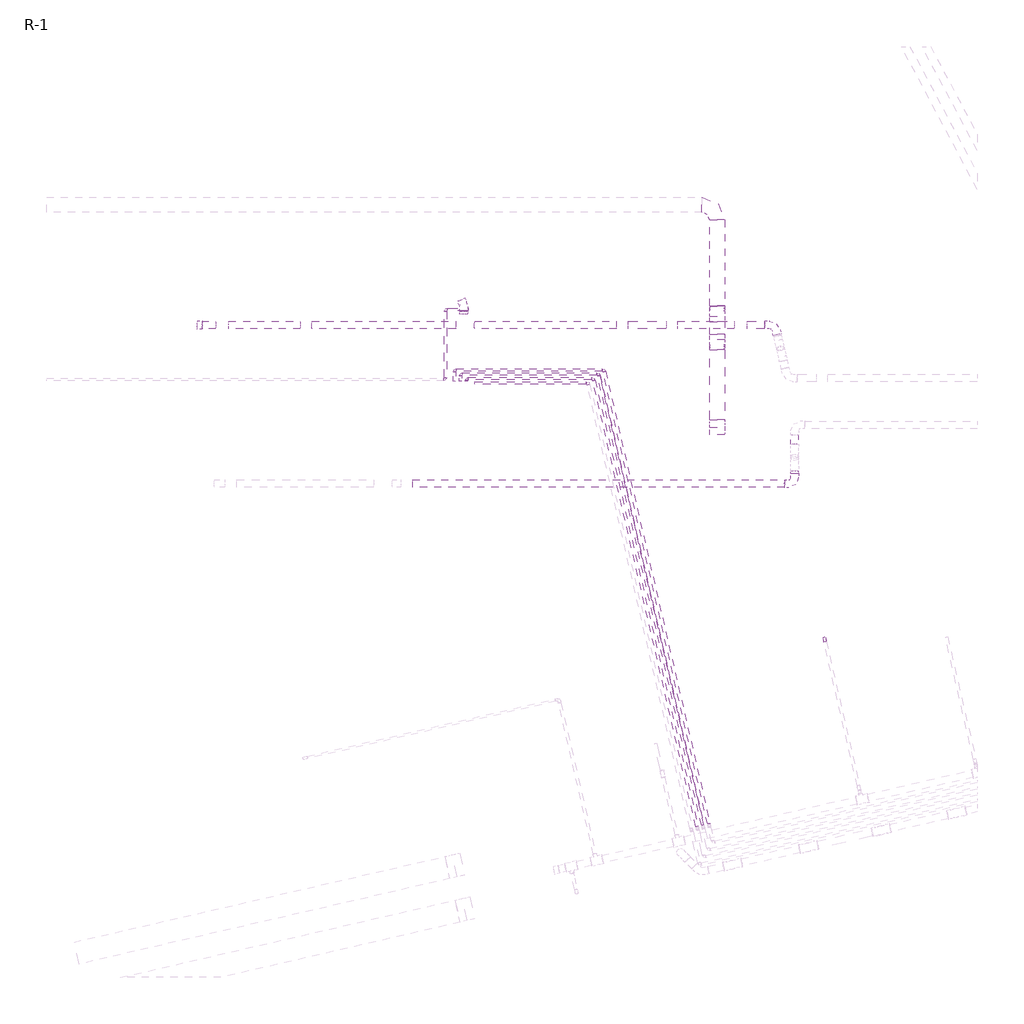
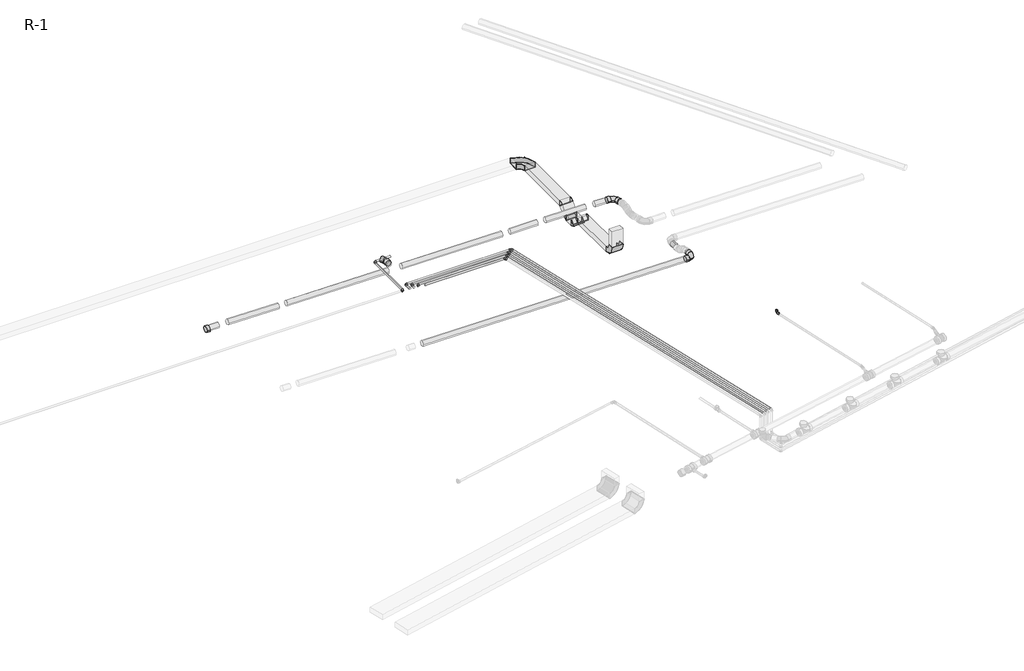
# One storey, part 3 of 4: 23 pipe segments, 14 pipe fittings, 6 cable carrier fittings, 6 cable carrier segments.
"""IFC4 building model written with IfcOpenShell, lengths in millimetres."""

from ifc_helpers import new_model, si_unit, point, frame, frame_2d, origin, place, context, project, spatial, polyline, circle_curve, trimmed, segment, composite_curve, outline, extrude, transform, mapped, element, save
from components import standaard_d5fcd458, standaard_fc092b2d, standaard_97f41160, standaard_30cef89a, coude_ff_pvc_u_standard_caf35bf8, coude_ff_pvc_u_standard_f969a64e, coude_ff_pvc_u_standard_f983a892, coude_ff_pvc_u_standard_4c98eaa9, standard_2aeb2a97, standard_a326d35e, standard_b47c3705, standard_b05dfe7e, standard_af0e4d0f, standard_6e5039bf, standard_92f9c62b

model = new_model("IFC4")

# Units and contexts
model_context = context("Model", 3, world=origin())
ifc_project = project(units=[si_unit("LENGTHUNIT", "METRE", prefix="MILLI")], contexts=[model_context])

# Site, building, storey
site = spatial("IfcSite", under=ifc_project)
building = spatial("IfcBuilding", under=site)
storey = spatial("IfcBuildingStorey", under=building, Name="R-1", Elevation=-2900.0)

# Cable carrier fittings
placement = place(None, origin())
standaard_shape = standaard_d5fcd458(model_context)
element("IfcCableCarrierFitting", 1, ObjectType="AI_Raccord cdc_Coude horizontal rayon court : standaard", at=placement, inside=storey, context=model_context, shape_type="MappedRepresentation", body=[
    mapped(standaard_shape, transform((39207.6747361, 6530.3545469, -382.2402782), x_axis=(0.0, 1.0, 0.0), y_axis=(-1.0, 0.0, 0.0), z_axis=(0.0, 0.0, 1.0))),
])
standaard_2_shape = standaard_fc092b2d(model_context)
element("IfcCableCarrierFitting", 2, ObjectType="AI_Raccord cdc_Coude desencdant : standaard", at=placement, inside=storey, context=model_context, shape_type="MappedRepresentation", body=[
    mapped(standaard_2_shape, transform((39207.6747361, 5166.563543, -382.2402782), x_axis=(0.0, 0.7071067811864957, 0.7071067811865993), y_axis=(0.0, 0.7071067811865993, -0.7071067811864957), z_axis=(-1.0, 0.0, 0.0))),
])
element("IfcCableCarrierFitting", 3, ObjectType="AI_Raccord cdc_Coude desencdant : standaard", at=placement, inside=storey, context=model_context, shape_type="MappedRepresentation", body=[
    mapped(standaard_2_shape, transform((39207.6747361, 4627.130711, -382.2402782), x_axis=(0.0, -0.7071067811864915, 0.7071067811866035), y_axis=(0.0, -0.7071067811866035, -0.7071067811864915), z_axis=(1.0, 0.0, 0.0))),
])
standaard_3_shape = standaard_97f41160(model_context)
element("IfcCableCarrierFitting", 4, ObjectType="AI_Raccord cdc_Coude montant : standaard", at=placement, inside=storey, context=model_context, shape_type="MappedRepresentation", body=[
    mapped(standaard_3_shape, transform((39207.6747361, 5001.563543, -547.2402782), x_axis=(0.0, 1.0, 0.0), y_axis=(0.0, 0.0, 1.0), z_axis=(1.0, 0.0, 0.0))),
])
element("IfcCableCarrierFitting", 5, ObjectType="AI_Raccord cdc_Coude montant : standaard", at=placement, inside=storey, context=model_context, shape_type="MappedRepresentation", body=[
    mapped(standaard_3_shape, transform((39207.6747361, 4792.130711, -547.2402782), x_axis=(0.0, -1.0, 0.0), y_axis=(0.0, 0.0, 1.0), z_axis=(-1.0, 0.0, 0.0))),
])
standaard_4_shape = standaard_30cef89a(model_context)
element("IfcCableCarrierFitting", 6, ObjectType="AI_Raccord cdc_Coude montant : standaard", at=placement, inside=storey, context=model_context, shape_type="MappedRepresentation", body=[
    mapped(standaard_4_shape, transform((39207.6747361, 3530.3545469, -382.2402782), x_axis=(0.0, 0.0, -1.0), y_axis=(0.0, 1.0, 0.0), z_axis=(1.0, 0.0, 0.0))),
])

# Cable carrier segments
element("IfcCableCarrierSegment", 7, ObjectType="Par défaut", at=placement, inside=storey, context=model_context, shape_type="SweptSolid", body=[
    extrude(outline(polyline([(39107.6747361, 3480.3545469), (39107.6747361, 3580.3545469), (39307.6747361, 3580.3545469), (39307.6747361, 3480.3545469), (39107.6747361, 3480.3545469)])), frame((0.0, 0.0, -231.2402782), z_axis=(0.0, 0.0, 1.0), x_axis=(1.0, 0.0, 0.0)), (0.0, 0.0, 1.0), 309.0),
])
element("IfcCableCarrierSegment", 8, ObjectType="Par défaut", at=placement, inside=storey, context=model_context, shape_type="SweptSolid", body=[
    extrude(outline(polyline([(39107.6747361, 6329.3545469), (39307.6747361, 6329.3545469), (39307.6747361, 5188.6884347), (39107.6747361, 5188.6884347), (39107.6747361, 6329.3545469)])), frame((0.0, 0.0, -432.2402782), z_axis=(0.0, 0.0, 1.0), x_axis=(1.0, 0.0, 0.0)), (0.0, 0.0, 1.0), 100.0),
])
element("IfcCableCarrierSegment", 9, ObjectType="Par défaut", at=placement, inside=storey, context=model_context, shape_type="SweptSolid", body=[
    extrude(outline(polyline([(100.0, 161.8033989), (100.0, 61.8033989), (-100.0, 61.8033989), (-100.0, 161.8033989), (100.0, 161.8033989)])), frame((39207.6747361, 4938.1512624, -452.5386758), z_axis=(0.0, 0.7071067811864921, 0.7071067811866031), x_axis=(1.0, 0.0, 0.0)), (0.0, 0.0, 1.0), 189.0954544),
])
element("IfcCableCarrierSegment", 10, ObjectType="Par défaut", at=placement, inside=storey, context=model_context, shape_type="SweptSolid", body=[
    extrude(outline(polyline([(39307.6747361, 3681.3545469), (39107.6747361, 3681.3545469), (39107.6747361, 4605.0058193), (39307.6747361, 4605.0058193), (39307.6747361, 3681.3545469)])), frame((0.0, 0.0, -432.2402782), z_axis=(0.0, 0.0, 1.0), x_axis=(1.0, 0.0, 0.0)), (0.0, 0.0, 1.0), 100.0),
])
element("IfcCableCarrierSegment", 11, ObjectType="Par défaut", at=placement, inside=storey, context=model_context, shape_type="SweptSolid", body=[
    extrude(outline(polyline([(39107.6747361, 4979.4386513), (39307.6747361, 4979.4386513), (39307.6747361, 4814.2556027), (39107.6747361, 4814.2556027), (39107.6747361, 4979.4386513)])), frame((0.0, 0.0, -597.2402782), z_axis=(0.0, 0.0, 1.0), x_axis=(1.0, 0.0, 0.0)), (0.0, 0.0, 1.0), 100.0),
])
element("IfcCableCarrierSegment", 12, ObjectType="Par défaut", at=placement, inside=storey, context=model_context, shape_type="SweptSolid", body=[
    extrude(outline(polyline([(0.0, -200.0), (0.0, 0.0), (189.0954544, 0.0), (189.0954544, -200.0), (0.0, -200.0)])), frame((39307.6747361, 4741.130711, -566.9509563), z_axis=(0.0, 0.7071067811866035, 0.7071067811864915), x_axis=(0.0, -0.7071067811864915, 0.7071067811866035)), (0.0, 0.0, 1.0), 100.0),
])

# Pipe fittings
coude_ff_pvc_u_standard_shape = coude_ff_pvc_u_standard_caf35bf8(model_context)
element("IfcPipeFitting", 13, ObjectType="Coude - FF - PVC-U : Standard", at=placement, inside=storey, context=model_context, shape_type="MappedRepresentation", body=[
    mapped(coude_ff_pvc_u_standard_shape, transform((39975.808466, 4937.4862635, -432.6958003), x_axis=(-0.2251156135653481, 0.9743320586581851, 0.0), y_axis=(-0.9742807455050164, -0.22510375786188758, 0.010262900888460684), z_axis=(0.009999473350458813, 0.0023103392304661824, 0.9999473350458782))),
])
coude_ff_pvc_u_standard_2_shape = coude_ff_pvc_u_standard_f969a64e(model_context)
element("IfcPipeFitting", 14, ObjectType="Coude - FF - PVC-U : Standard", at=placement, inside=storey, context=model_context, shape_type="MappedRepresentation", body=[
    mapped(coude_ff_pvc_u_standard_2_shape, transform((40235.7772003, 2832.6862635, -413.0648568), x_axis=(0.9999500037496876, 0.0, -0.00999950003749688), y_axis=(-9.99850023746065e-05, 0.999950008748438, -0.009998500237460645), z_axis=(0.00999900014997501, 0.009999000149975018, 0.9999000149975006))),
])
coude_ff_pvc_u_standard_3_shape = coude_ff_pvc_u_standard_f983a892(model_context)
element("IfcPipeFitting", 15, ObjectType="Coude - FF - PVC-U : Standard", at=placement, inside=storey, context=model_context, shape_type="MappedRepresentation", body=[
    mapped(coude_ff_pvc_u_standard_3_shape, transform((35846.2989854, 5200.3602058, -391.5823256), x_axis=(2.133955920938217e-05, 0.9999999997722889, -2.1339476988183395e-07), y_axis=(-0.9999999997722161, 2.1339559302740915e-05, 4.3750039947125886e-07), z_axis=(4.375049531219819e-07, 2.1338543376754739e-07, 0.9999999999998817))),
])
coude_ff_pvc_u_standard_4_shape = coude_ff_pvc_u_standard_4c98eaa9(model_context)
element("IfcPipeFitting", 16, ObjectType="Coude - FF - PVC-U : Standard", at=placement, inside=storey, context=model_context, shape_type="MappedRepresentation", body=[
    mapped(coude_ff_pvc_u_standard_4_shape, transform((40630.2876402, 781.7003068, -412.5413096), x_axis=(7.939911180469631e-05, 1.8330729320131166e-05, -0.9999999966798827), y_axis=(0.2249498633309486, -0.9743703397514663, -9.960648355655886e-11), z_axis=(-0.9743703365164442, -0.22494986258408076, -8.148763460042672e-05))),
])
standard_shape = standard_2aeb2a97(model_context)
element("IfcPipeFitting", 17, ObjectType="Coude - Générique1 : Standard", at=placement, inside=storey, context=model_context, shape_type="MappedRepresentation", body=[
    mapped(standard_shape, transform((37496.8472095, 4168.2456225, -296.6995), x_axis=(-0.22511561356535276, 0.974332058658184, 0.0), y_axis=(-0.974332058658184, -0.22511561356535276, 0.0), z_axis=(0.0, 0.0, 1.0))),
])
standard_2_shape = standard_a326d35e(model_context)
element("IfcPipeFitting", 18, ObjectType="Coude - Générique1 : Standard", at=placement, inside=storey, context=model_context, shape_type="MappedRepresentation", body=[
    mapped(standard_2_shape, transform((37568.3496906, 4225.9535763, -296.6995), x_axis=(-0.2250151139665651, 0.9743552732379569, 0.0), y_axis=(-0.9743552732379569, -0.2250151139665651, 0.0), z_axis=(0.0, 0.0, 1.0))),
])
standard_3_shape = standard_b47c3705(model_context)
element("IfcPipeFitting", 19, ObjectType="Coude - Générique1 : Standard", at=placement, inside=storey, context=model_context, shape_type="MappedRepresentation", body=[
    mapped(standard_3_shape, transform((37633.8301161, 4287.3531501, -296.6995), x_axis=(-0.22511434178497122, 0.9743323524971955, 0.0), y_axis=(-0.9743323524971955, -0.22511434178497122, 0.0), z_axis=(0.0, 0.0, 1.0))),
])
standard_4_shape = standard_b05dfe7e(model_context)
element("IfcPipeFitting", 20, ObjectType="Coude - Générique1 : Standard", at=placement, inside=storey, context=model_context, shape_type="MappedRepresentation", body=[
    mapped(standard_4_shape, transform((37705.9987374, 4340.751096, -296.6995), x_axis=(-0.2251126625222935, 0.9743327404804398, 0.0), y_axis=(-0.9743327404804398, -0.2251126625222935, 0.0), z_axis=(0.0, 0.0, 1.0))),
])
standard_5_shape = standard_af0e4d0f(model_context)
element("IfcPipeFitting", 21, ObjectType="Coude - Générique1 : Standard", at=placement, inside=storey, context=model_context, shape_type="MappedRepresentation", body=[
    mapped(standard_5_shape, transform((35724.5497561, 4340.751096, -296.6995), x_axis=(-1.0, 0.0, 0.0), y_axis=(0.0, -1.0, 0.0), z_axis=(0.0, 0.0, 1.0))),
])
standard_6_shape = standard_6e5039bf(model_context)
element("IfcPipeFitting", 22, ObjectType="Coude - Générique1 : Standard", at=placement, inside=storey, context=model_context, shape_type="MappedRepresentation", body=[
    mapped(standard_6_shape, transform((35881.2318563, 4225.9535763, -296.6995), x_axis=(-1.0, 0.0, 0.0), y_axis=(0.0, -1.0, 0.0), z_axis=(0.0, 0.0, 1.0))),
])
element("IfcPipeFitting", 23, ObjectType="Coude - Générique1 : Standard", at=placement, inside=storey, context=model_context, shape_type="MappedRepresentation", body=[
    mapped(standard_6_shape, transform((35801.553377, 4287.3531501, -296.6995), x_axis=(-1.0, 0.0, 0.0), y_axis=(0.0, -1.0, 0.0), z_axis=(0.0, 0.0, 1.0))),
])
element("IfcPipeFitting", 24, ObjectType="Coude - Générique1 : Standard", at=placement, inside=storey, context=model_context, shape_type="MappedRepresentation", body=[
    mapped(standard_6_shape, transform((35605.5581846, 5144.881811, -296.6994999), x_axis=(-1.0, 0.0, 0.0), y_axis=(0.0, -1.0, 0.0), z_axis=(0.0, 0.0, 1.0))),
])
element("IfcPipeFitting", 25, ObjectType="Coude - Générique1 : Standard", at=placement, inside=storey, context=model_context, shape_type="MappedRepresentation", body=[
    mapped(standard_6_shape, transform((35605.5581846, 4212.7875587, -296.6995001), x_axis=(1.0, 0.0, 0.0), y_axis=(0.0, 1.0, 0.0), z_axis=(0.0, 0.0, 1.0))),
])
standard_7_shape = standard_92f9c62b(model_context)
element("IfcPipeFitting", 26, ObjectType="Chapeau - Générique : Standard", at=placement, inside=storey, context=model_context, shape_type="MappedRepresentation", body=[
    mapped(standard_7_shape, transform((32376.1784388, 4937.4862635, -356.6995), x_axis=(-0.9999500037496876, 0.0, 0.009999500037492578), y_axis=(0.0, -1.0, 0.0), z_axis=(0.009999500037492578, 0.0, 0.9999500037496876))),
])

# Pipe segments
element("IfcPipeSegment", 27, ObjectType="PVC Pression HTA", at=placement, inside=storey, context=model_context, shape_type="SweptSolid", body=[
    extrude(outline(composite_curve([segment(trimmed(circle_curve(frame_2d((5144.881811, -296.6994997)), 16.7005), [point((5161.582311, -296.6994997))], [point((5144.8818111, -313.3999997))], False, "CARTESIAN"), True, "CONTINUOUS"), segment(trimmed(circle_curve(frame_2d((5144.881811, -296.6994997)), 16.7005), [point((5144.8818111, -313.3999997))], [point((5128.181311, -296.6994998))], False, "CARTESIAN"), True, "CONTINUOUS"), segment(trimmed(circle_curve(frame_2d((5144.881811, -296.6994997)), 16.7005), [point((5128.181311, -296.6994998))], [point((5144.881811, -279.9989997))], False, "CARTESIAN"), True, "CONTINUOUS"), segment(trimmed(circle_curve(frame_2d((5144.881811, -296.6994997)), 16.7005), [point((5144.881811, -279.9989997))], [point((5161.582311, -296.6994997))], False, "CARTESIAN"), True, "CONTINUOUS")], self_intersect=False)), frame((35630.5581846, 0.0, 0.0), z_axis=(1.0, 0.0, 0.0), x_axis=(0.0, 1.0, 0.0)), (0.0, 0.0, 1.0), 275.4581794),
])
element("IfcPipeSegment", 28, ObjectType="Acier - Té", at=placement, inside=storey, context=model_context, shape_type="SweptSolid", body=[
    extrude(outline(composite_curve([segment(trimmed(circle_curve(frame_2d((4168.2456225, -296.6995)), 16.7005), [point((4151.5451225, -296.6995))], [point((4168.2456225, -279.999))], False, "CARTESIAN"), True, "CONTINUOUS"), segment(trimmed(circle_curve(frame_2d((4168.2456225, -296.6995)), 16.7005), [point((4168.2456225, -279.999))], [point((4184.9461225, -296.6995))], False, "CARTESIAN"), True, "CONTINUOUS"), segment(trimmed(circle_curve(frame_2d((4168.2456225, -296.6995)), 16.7005), [point((4184.9461225, -296.6995))], [point((4168.2456225, -313.4))], False, "CARTESIAN"), True, "CONTINUOUS"), segment(trimmed(circle_curve(frame_2d((4168.2456225, -296.6995)), 16.7005), [point((4168.2456225, -313.4))], [point((4151.5451225, -296.6995))], False, "CARTESIAN"), True, "CONTINUOUS")], self_intersect=False)), frame((35990.7522461, 0.0, 0.0), z_axis=(1.0, 0.0, 0.0), x_axis=(0.0, 1.0, 0.0)), (0.0, 0.0, 1.0), 1481.0949634),
])
element("IfcPipeSegment", 29, ObjectType="Acier - Té", at=placement, inside=storey, context=model_context, shape_type="SweptSolid", body=[
    extrude(outline(composite_curve([segment(trimmed(circle_curve(frame_2d((0.0, 16.7005)), 16.7005), [point((16.7005001, 16.7005))], [point((0.0, 0.0))], False, "CARTESIAN"), True, "CONTINUOUS"), segment(trimmed(circle_curve(frame_2d((0.0, 16.7005)), 16.7005), [point((0.0, 0.0))], [point((-16.7005, 16.7005))], False, "CARTESIAN"), True, "CONTINUOUS"), segment(trimmed(circle_curve(frame_2d((0.0, 16.7005)), 16.7005), [point((-16.7005, 16.7005))], [point((0.0, 33.401))], False, "CARTESIAN"), True, "CONTINUOUS"), segment(trimmed(circle_curve(frame_2d((0.0, 16.7005)), 16.7005), [point((0.0, 33.401))], [point((16.7005001, 16.7005))], False, "CARTESIAN"), True, "CONTINUOUS")], self_intersect=False)), frame((38940.4071756, -1715.2982009, -279.999), z_axis=(-0.22501511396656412, 0.9743552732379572, 0.0), x_axis=(0.9743552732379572, 0.22501511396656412, 0.0)), (0.0, 0.0, 1.0), 6072.6236701),
])
element("IfcPipeSegment", 30, ObjectType="Acier - Té", at=placement, inside=storey, context=model_context, shape_type="SweptSolid", body=[
    extrude(outline(composite_curve([segment(trimmed(circle_curve(frame_2d((4225.9535763, -296.6995)), 16.7005), [point((4242.6540763, -296.6995))], [point((4225.9535763, -313.4))], False, "CARTESIAN"), True, "CONTINUOUS"), segment(trimmed(circle_curve(frame_2d((4225.9535763, -296.6995)), 16.7005), [point((4225.9535763, -313.4))], [point((4209.2530763, -296.6995))], False, "CARTESIAN"), True, "CONTINUOUS"), segment(trimmed(circle_curve(frame_2d((4225.9535763, -296.6995)), 16.7005), [point((4209.2530763, -296.6995))], [point((4225.9535763, -279.999))], False, "CARTESIAN"), True, "CONTINUOUS"), segment(trimmed(circle_curve(frame_2d((4225.9535763, -296.6995)), 16.7005), [point((4225.9535763, -279.999))], [point((4242.6540763, -296.6995))], False, "CARTESIAN"), True, "CONTINUOUS")], self_intersect=False)), frame((35906.2318563, 0.0, 0.0), z_axis=(1.0, 0.0, 0.0), x_axis=(0.0, 1.0, 0.0)), (0.0, 0.0, 1.0), 1637.1178343),
])
element("IfcPipeSegment", 31, ObjectType="Acier - Té", at=placement, inside=storey, context=model_context, shape_type="SweptSolid", body=[
    extrude(outline(composite_curve([segment(trimmed(circle_curve(frame_2d((-296.6995, 35881.2318563)), 16.7005), [point((-296.6995, 35897.9323563))], [point((-279.999, 35881.2318563))], False, "CARTESIAN"), True, "CONTINUOUS"), segment(trimmed(circle_curve(frame_2d((-296.6995, 35881.2318563)), 16.7005), [point((-279.999, 35881.2318563))], [point((-296.6995, 35864.5313563))], False, "CARTESIAN"), True, "CONTINUOUS"), segment(trimmed(circle_curve(frame_2d((-296.6995, 35881.2318563)), 16.7005), [point((-296.6995, 35864.5313563))], [point((-313.4, 35881.2318563))], False, "CARTESIAN"), True, "CONTINUOUS"), segment(trimmed(circle_curve(frame_2d((-296.6995, 35881.2318563)), 16.7005), [point((-313.4, 35881.2318563))], [point((-296.6995, 35897.9323563))], False, "CARTESIAN"), True, "CONTINUOUS")], self_intersect=False)), frame((0.0, 4193.3075894, 0.0), z_axis=(0.0, 1.0, 0.0), x_axis=(0.0, 0.0, 1.0)), (0.0, 0.0, 1.0), 7.6459869),
])
element("IfcPipeSegment", 32, ObjectType="Acier - Té", at=placement, inside=storey, context=model_context, shape_type="SweptSolid", body=[
    extrude(outline(composite_curve([segment(trimmed(circle_curve(frame_2d((0.0, 16.7005)), 16.7005), [point((16.7005001, 16.7005))], [point((0.0, 0.0))], False, "CARTESIAN"), True, "CONTINUOUS"), segment(trimmed(circle_curve(frame_2d((0.0, 16.7005)), 16.7005), [point((0.0, 0.0))], [point((-16.7004999, 16.7005))], False, "CARTESIAN"), True, "CONTINUOUS"), segment(trimmed(circle_curve(frame_2d((0.0, 16.7005)), 16.7005), [point((-16.7004999, 16.7005))], [point((0.0, 33.401))], False, "CARTESIAN"), True, "CONTINUOUS"), segment(trimmed(circle_curve(frame_2d((0.0, 16.7005)), 16.7005), [point((0.0, 33.401))], [point((16.7005001, 16.7005))], False, "CARTESIAN"), True, "CONTINUOUS")], self_intersect=False)), frame((39016.6443784, -1697.6972142, -279.999), z_axis=(-0.22511434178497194, 0.9743323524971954, 0.0), x_axis=(0.9743323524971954, 0.22511434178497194, 0.0)), (0.0, 0.0, 1.0), 6117.7195237),
])
element("IfcPipeSegment", 33, ObjectType="Acier - Té", at=placement, inside=storey, context=model_context, shape_type="SweptSolid", body=[
    extrude(outline(composite_curve([segment(trimmed(circle_curve(frame_2d((4287.3531501, -296.6995)), 16.7005), [point((4304.0536501, -296.6995))], [point((4287.3531501, -313.4))], False, "CARTESIAN"), True, "CONTINUOUS"), segment(trimmed(circle_curve(frame_2d((4287.3531501, -296.6995)), 16.7005), [point((4287.3531501, -313.4))], [point((4270.6526501, -296.6995))], False, "CARTESIAN"), True, "CONTINUOUS"), segment(trimmed(circle_curve(frame_2d((4287.3531501, -296.6995)), 16.7005), [point((4270.6526501, -296.6995))], [point((4287.3531501, -279.999))], False, "CARTESIAN"), True, "CONTINUOUS"), segment(trimmed(circle_curve(frame_2d((4287.3531501, -296.6995)), 16.7005), [point((4287.3531501, -279.999))], [point((4304.0536501, -296.6995))], False, "CARTESIAN"), True, "CONTINUOUS")], self_intersect=False)), frame((35826.553377, 0.0, 0.0), z_axis=(1.0, 0.0, 0.0), x_axis=(0.0, 1.0, 0.0)), (0.0, 0.0, 1.0), 1782.2767391),
])
element("IfcPipeSegment", 34, ObjectType="Acier - Té", at=placement, inside=storey, context=model_context, shape_type="SweptSolid", body=[
    extrude(outline(composite_curve([segment(trimmed(circle_curve(frame_2d((-296.6995, 35801.553377)), 16.7005), [point((-296.6995, 35818.253877))], [point((-279.999, 35801.553377))], False, "CARTESIAN"), True, "CONTINUOUS"), segment(trimmed(circle_curve(frame_2d((-296.6995, 35801.553377)), 16.7005), [point((-279.999, 35801.553377))], [point((-296.6995, 35784.852877))], False, "CARTESIAN"), True, "CONTINUOUS"), segment(trimmed(circle_curve(frame_2d((-296.6995, 35801.553377)), 16.7005), [point((-296.6995, 35784.852877))], [point((-313.4, 35801.553377))], False, "CARTESIAN"), True, "CONTINUOUS"), segment(trimmed(circle_curve(frame_2d((-296.6995, 35801.553377)), 16.7005), [point((-313.4, 35801.553377))], [point((-296.6995, 35818.253877))], False, "CARTESIAN"), True, "CONTINUOUS")], self_intersect=False)), frame((0.0, 4193.3819131, 0.0), z_axis=(0.0, 1.0, 0.0), x_axis=(0.0, 0.0, 1.0)), (0.0, 0.0, 1.0), 68.971237),
])
element("IfcPipeSegment", 35, ObjectType="Acier - Té", at=placement, inside=storey, context=model_context, shape_type="SweptSolid", body=[
    extrude(outline(composite_curve([segment(trimmed(circle_curve(frame_2d((0.0, 16.7005)), 16.7005), [point((16.7005001, 16.7005))], [point((0.0, 0.0))], False, "CARTESIAN"), True, "CONTINUOUS"), segment(trimmed(circle_curve(frame_2d((0.0, 16.7005)), 16.7005), [point((0.0, 0.0))], [point((-16.7005, 16.7005))], False, "CARTESIAN"), True, "CONTINUOUS"), segment(trimmed(circle_curve(frame_2d((0.0, 16.7005)), 16.7005), [point((-16.7005, 16.7005))], [point((0.0, 33.401))], False, "CARTESIAN"), True, "CONTINUOUS"), segment(trimmed(circle_curve(frame_2d((0.0, 16.7005)), 16.7005), [point((0.0, 33.401))], [point((16.7005001, 16.7005))], False, "CARTESIAN"), True, "CONTINUOUS")], self_intersect=False)), frame((39096.8605255, -1679.1776032, -279.999), z_axis=(-0.22511266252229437, 0.9743327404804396, 0.0), x_axis=(0.9743327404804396, 0.22511266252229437, 0.0)), (0.0, 0.0, 1.0), 6153.5142274),
])
element("IfcPipeSegment", 36, ObjectType="Acier - Té", at=placement, inside=storey, context=model_context, shape_type="SweptSolid", body=[
    extrude(outline(composite_curve([segment(trimmed(circle_curve(frame_2d((4340.751096, -296.6995)), 16.7005), [point((4357.451596, -296.6995))], [point((4340.751096, -313.4))], False, "CARTESIAN"), True, "CONTINUOUS"), segment(trimmed(circle_curve(frame_2d((4340.751096, -296.6995)), 16.7005), [point((4340.751096, -313.4))], [point((4324.050596, -296.6995))], False, "CARTESIAN"), True, "CONTINUOUS"), segment(trimmed(circle_curve(frame_2d((4340.751096, -296.6995)), 16.7005), [point((4324.050596, -296.6995))], [point((4340.751096, -279.999))], False, "CARTESIAN"), True, "CONTINUOUS"), segment(trimmed(circle_curve(frame_2d((4340.751096, -296.6995)), 16.7005), [point((4340.751096, -279.999))], [point((4357.451596, -296.6995))], False, "CARTESIAN"), True, "CONTINUOUS")], self_intersect=False)), frame((35749.5497561, 0.0, 0.0), z_axis=(1.0, 0.0, 0.0), x_axis=(0.0, 1.0, 0.0)), (0.0, 0.0, 1.0), 1931.4489813),
])
element("IfcPipeSegment", 37, ObjectType="Acier - Té", at=placement, inside=storey, context=model_context, shape_type="SweptSolid", body=[
    extrude(outline(composite_curve([segment(trimmed(circle_curve(frame_2d((-296.6995, 35724.916925)), 16.7005), [point((-296.6995, 35741.617425))], [point((-279.999, 35724.916925))], False, "CARTESIAN"), True, "CONTINUOUS"), segment(trimmed(circle_curve(frame_2d((-296.6995, 35724.916925)), 16.7005), [point((-279.999, 35724.916925))], [point((-296.6995, 35708.216425))], False, "CARTESIAN"), True, "CONTINUOUS"), segment(trimmed(circle_curve(frame_2d((-296.6995, 35724.916925)), 16.7005), [point((-296.6995, 35708.216425))], [point((-313.4, 35724.916925))], False, "CARTESIAN"), True, "CONTINUOUS"), segment(trimmed(circle_curve(frame_2d((-296.6995, 35724.916925)), 16.7005), [point((-313.4, 35724.916925))], [point((-296.6995, 35741.617425))], False, "CARTESIAN"), True, "CONTINUOUS")], self_intersect=False)), frame((0.0, 4193.3728915, 0.0), z_axis=(0.0, 1.0, 0.0), x_axis=(0.0, 0.0, 1.0)), (0.0, 0.0, 1.0), 122.3809009),
])
element("IfcPipeSegment", 38, ObjectType="PVC Pression HTA", at=placement, inside=storey, context=model_context, shape_type="SweptSolid", body=[
    extrude(outline(composite_curve([segment(trimmed(circle_curve(frame_2d((-296.6994999, 35605.5581846)), 16.7005), [point((-296.6994999, 35588.8576846))], [point((-313.3999999, 35605.5581846))], False, "CARTESIAN"), True, "CONTINUOUS"), segment(trimmed(circle_curve(frame_2d((-296.6994999, 35605.5581846)), 16.7005), [point((-313.3999999, 35605.5581846))], [point((-296.6994999, 35622.2586846))], False, "CARTESIAN"), True, "CONTINUOUS"), segment(trimmed(circle_curve(frame_2d((-296.6994999, 35605.5581846)), 16.7005), [point((-296.6994999, 35622.2586846))], [point((-279.9989999, 35605.5581846))], False, "CARTESIAN"), True, "CONTINUOUS"), segment(trimmed(circle_curve(frame_2d((-296.6994999, 35605.5581846)), 16.7005), [point((-279.9989999, 35605.5581846))], [point((-296.6994999, 35588.8576846))], False, "CARTESIAN"), True, "CONTINUOUS")], self_intersect=False)), frame((0.0, 4237.7875587, 0.0), z_axis=(0.0, 1.0, 0.0), x_axis=(0.0, 0.0, 1.0)), (0.0, 0.0, 1.0), 882.0942523),
])
element("IfcPipeSegment", 39, ObjectType="PVC", at=placement, inside=storey, context=model_context, shape_type="SweptSolid", body=[
    extrude(outline(composite_curve([segment(trimmed(circle_curve(frame_2d((0.0, -50.0)), 50.0), [point((0.0, -100.0))], [point((-50.0, -50.0))], False, "CARTESIAN"), True, "CONTINUOUS"), segment(trimmed(circle_curve(frame_2d((0.0, -50.0)), 50.0), [point((-50.0, -50.0))], [point((0.0, 0.0))], False, "CARTESIAN"), True, "CONTINUOUS"), segment(trimmed(circle_curve(frame_2d((0.0, -50.0)), 50.0), [point((0.0, 0.0))], [point((50.0, -50.0))], False, "CARTESIAN"), True, "CONTINUOUS"), segment(trimmed(circle_curve(frame_2d((0.0, -50.0)), 50.0), [point((50.0, -50.0))], [point((0.0, -100.0))], False, "CARTESIAN"), True, "CONTINUOUS")], self_intersect=False)), frame((32553.5343982, 4987.4862635, -358.4730596), z_axis=(-0.9999500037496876, 0.0, 0.009999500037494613), x_axis=(0.009999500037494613, 0.0, 0.9999500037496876)), (0.0, 0.0, 1.0), 177.364827),
])
element("IfcPipeSegment", 40, ObjectType="PVC", at=placement, inside=storey, context=model_context, shape_type="SweptSolid", body=[
    extrude(outline(composite_curve([segment(trimmed(circle_curve(frame_2d((0.0, -50.0)), 50.0), [point((0.0, -100.0))], [point((-49.9999999, -50.0))], False, "CARTESIAN"), True, "CONTINUOUS"), segment(trimmed(circle_curve(frame_2d((0.0, -50.0)), 50.0), [point((-49.9999999, -50.0))], [point((0.0, 0.0))], False, "CARTESIAN"), True, "CONTINUOUS"), segment(trimmed(circle_curve(frame_2d((0.0, -50.0)), 50.0), [point((0.0, 0.0))], [point((50.0, -50.0))], False, "CARTESIAN"), True, "CONTINUOUS"), segment(trimmed(circle_curve(frame_2d((0.0, -50.0)), 50.0), [point((50.0, -50.0))], [point((0.0, -100.0))], False, "CARTESIAN"), True, "CONTINUOUS")], self_intersect=False)), frame((33676.5974143, 4987.4862635, -369.7036898), z_axis=(-0.9999500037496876, 0.0, 0.009999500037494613), x_axis=(0.009999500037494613, 0.0, 0.9999500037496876)), (0.0, 0.0, 1.0), 947.5038696),
])
element("IfcPipeSegment", 41, ObjectType="PVC", at=placement, inside=storey, context=model_context, shape_type="SweptSolid", body=[
    extrude(outline(composite_curve([segment(trimmed(circle_curve(frame_2d((0.0, -50.0000001)), 50.0), [point((-0.0024732, -100.0))], [point((-49.9999999, -49.9975268))], False, "CARTESIAN"), True, "CONTINUOUS"), segment(trimmed(circle_curve(frame_2d((0.0, -50.0000001)), 50.0), [point((-49.9999999, -49.9975268))], [point((0.0024732, -1e-07))], False, "CARTESIAN"), True, "CONTINUOUS"), segment(trimmed(circle_curve(frame_2d((0.0, -50.0000001)), 50.0), [point((0.0024732, -1e-07))], [point((50.0, -50.0024732))], False, "CARTESIAN"), True, "CONTINUOUS"), segment(trimmed(circle_curve(frame_2d((0.0, -50.0000001)), 50.0), [point((50.0, -50.0024732))], [point((-0.0024732, -100.0))], False, "CARTESIAN"), True, "CONTINUOUS")], self_intersect=False)), frame((35738.0953506, 4987.4853213, -390.3211422), z_axis=(-0.9999500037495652, 4.945897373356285e-07, 0.009999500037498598), x_axis=(0.009999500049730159, 4.945897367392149e-05, 0.999950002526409)), (0.0, 0.0, 1.0), 1904.9758233),
])
element("IfcPipeSegment", 42, ObjectType="PVC", at=placement, inside=storey, context=model_context, shape_type="SweptSolid", body=[
    extrude(outline(composite_curve([segment(trimmed(circle_curve(frame_2d((0.0, -50.0)), 50.0), [point((0.0012228, -100.0))], [point((-50.0, -50.0012228))], False, "CARTESIAN"), True, "CONTINUOUS"), segment(trimmed(circle_curve(frame_2d((0.0, -50.0)), 50.0), [point((-50.0, -50.0012228))], [point((-0.0012229, 0.0))], False, "CARTESIAN"), True, "CONTINUOUS"), segment(trimmed(circle_curve(frame_2d((0.0, -50.0)), 50.0), [point((-0.0012229, 0.0))], [point((50.0, -49.9987772))], False, "CARTESIAN"), True, "CONTINUOUS"), segment(trimmed(circle_curve(frame_2d((0.0, -50.0)), 50.0), [point((50.0, -49.9987772))], [point((0.0012228, -100.0))], False, "CARTESIAN"), True, "CONTINUOUS")], self_intersect=False)), frame((37869.0945596, 4987.4857811, -411.6274384), z_axis=(-0.9999500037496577, -2.4454177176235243e-07, 0.00999950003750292), x_axis=(0.009999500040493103, -2.4454177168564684e-05, 0.9999500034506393)), (0.0, 0.0, 1.0), 1880.0255052),
])
element("IfcPipeSegment", 43, ObjectType="PVC", at=placement, inside=storey, context=model_context, shape_type="SweptSolid", body=[
    extrude(outline(composite_curve([segment(trimmed(circle_curve(frame_2d((0.0, -50.0)), 50.0), [point((0.0012228, -100.0))], [point((-50.0, -50.0012228))], False, "CARTESIAN"), True, "CONTINUOUS"), segment(trimmed(circle_curve(frame_2d((0.0, -50.0)), 50.0), [point((-50.0, -50.0012228))], [point((-0.0012229, 0.0))], False, "CARTESIAN"), True, "CONTINUOUS"), segment(trimmed(circle_curve(frame_2d((0.0, -50.0)), 50.0), [point((-0.0012229, 0.0))], [point((50.0, -49.9987771))], False, "CARTESIAN"), True, "CONTINUOUS"), segment(trimmed(circle_curve(frame_2d((0.0, -50.0)), 50.0), [point((50.0, -49.9987771))], [point((0.0012228, -100.0))], False, "CARTESIAN"), True, "CONTINUOUS")], self_intersect=False)), frame((39841.8151655, 4987.4862635, -431.3546445), z_axis=(-0.9999500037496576, -2.445417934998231e-07, 0.009999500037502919), x_axis=(0.009999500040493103, -2.4454179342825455e-05, 0.9999500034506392)), (0.0, 0.0, 1.0), 231.52884),
])
element("IfcPipeSegment", 44, ObjectType="PVC", at=placement, inside=storey, context=model_context, shape_type="SweptSolid", body=[
    extrude(outline(composite_curve([segment(trimmed(circle_curve(frame_2d((0.0, -50.0)), 50.0), [point((0.0012228, -100.0))], [point((-49.9999999, -50.0012229))], False, "CARTESIAN"), True, "CONTINUOUS"), segment(trimmed(circle_curve(frame_2d((0.0, -50.0)), 50.0), [point((-49.9999999, -50.0012229))], [point((-0.0012229, 0.0))], False, "CARTESIAN"), True, "CONTINUOUS"), segment(trimmed(circle_curve(frame_2d((0.0, -50.0)), 50.0), [point((-0.0012229, 0.0))], [point((50.0, -49.9987772))], False, "CARTESIAN"), True, "CONTINUOUS"), segment(trimmed(circle_curve(frame_2d((0.0, -50.0)), 50.0), [point((50.0, -49.9987772))], [point((0.0012228, -100.0))], False, "CARTESIAN"), True, "CONTINUOUS")], self_intersect=False)), frame((39434.6879142, 4987.486164, -427.283372), z_axis=(-0.9999500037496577, -2.445417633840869e-07, 0.009999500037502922), x_axis=(0.009999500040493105, -2.445417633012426e-05, 0.9999500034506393)), (0.0, 0.0, 1.0), 747.5664697),
])
element("IfcPipeSegment", 45, ObjectType="PVC", at=placement, inside=storey, context=model_context, shape_type="SweptSolid", body=[
    extrude(outline(composite_curve([segment(trimmed(circle_curve(frame_2d((0.0, -50.0)), 50.0), [point((50.0, -50.0))], [point((0.0, -99.9999999))], False, "CARTESIAN"), True, "CONTINUOUS"), segment(trimmed(circle_curve(frame_2d((0.0, -50.0)), 50.0), [point((0.0, -99.9999999))], [point((-50.0, -50.0))], False, "CARTESIAN"), True, "CONTINUOUS"), segment(trimmed(circle_curve(frame_2d((0.0, -50.0)), 50.0), [point((-50.0, -50.0))], [point((0.0, 0.0))], False, "CARTESIAN"), True, "CONTINUOUS"), segment(trimmed(circle_curve(frame_2d((0.0, -50.0)), 50.0), [point((0.0, 0.0))], [point((50.0, -50.0))], False, "CARTESIAN"), True, "CONTINUOUS")], self_intersect=False)), frame((40235.7772003, 3003.1777392, -364.7672717), z_axis=(0.0, -0.9999500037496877, 0.009999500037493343), x_axis=(1.0, 0.0, 0.0)), (0.0, 0.0, 1.0), 36.0),
])
element("IfcPipeSegment", 46, ObjectType="PVC", at=placement, inside=storey, context=model_context, shape_type="SweptSolid", body=[
    extrude(outline(composite_curve([segment(trimmed(circle_curve(frame_2d((0.0, -49.9999999)), 50.0), [point((50.0, -49.9999999))], [point((0.0, -99.9999999))], False, "CARTESIAN"), True, "CONTINUOUS"), segment(trimmed(circle_curve(frame_2d((0.0, -49.9999999)), 50.0), [point((0.0, -99.9999999))], [point((-50.0, -49.9999999))], False, "CARTESIAN"), True, "CONTINUOUS"), segment(trimmed(circle_curve(frame_2d((0.0, -49.9999999)), 50.0), [point((-50.0, -49.9999999))], [point((0.0, 0.0))], False, "CARTESIAN"), True, "CONTINUOUS"), segment(trimmed(circle_curve(frame_2d((0.0, -49.9999999)), 50.0), [point((0.0, 0.0))], [point((50.0, -49.9999999))], False, "CARTESIAN"), True, "CONTINUOUS")], self_intersect=False)), frame((40235.7772003, 3477.7942179, -489.5134365), z_axis=(0.0, -0.9999500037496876, 0.009999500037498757), x_axis=(1.0, 0.0, 0.0)), (0.0, 0.0, 1.0), 120.7707665),
])
element("IfcPipeSegment", 47, ObjectType="PVC", at=placement, inside=storey, context=model_context, shape_type="SweptSolid", body=[
    extrude(outline(composite_curve([segment(trimmed(circle_curve(frame_2d((0.0, -50.0)), 50.0), [point((0.0, -100.0))], [point((-50.0, -50.0))], False, "CARTESIAN"), True, "CONTINUOUS"), segment(trimmed(circle_curve(frame_2d((0.0, -50.0)), 50.0), [point((-50.0, -50.0))], [point((0.0, 0.0))], False, "CARTESIAN"), True, "CONTINUOUS"), segment(trimmed(circle_curve(frame_2d((0.0, -50.0)), 50.0), [point((0.0, 0.0))], [point((49.9999999, -50.0))], False, "CARTESIAN"), True, "CONTINUOUS"), segment(trimmed(circle_curve(frame_2d((0.0, -50.0)), 50.0), [point((49.9999999, -50.0))], [point((0.0, -100.0))], False, "CARTESIAN"), True, "CONTINUOUS")], self_intersect=False)), frame((40101.7838998, 2882.6862635, -411.7249238), z_axis=(-0.9999500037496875, 0.0, 0.009999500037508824), x_axis=(0.009999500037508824, 0.0, 0.9999500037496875)), (0.0, 0.0, 1.0), 4933.0438943),
])
element("IfcPipeSegment", 48, ObjectType="PVC", at=placement, inside=storey, context=model_context, shape_type="SweptSolid", body=[
    extrude(outline(composite_curve([segment(trimmed(circle_curve(frame_2d((0.0, 50.0)), 50.0), [point((0.0, 100.0))], [point((50.0, 50.0))], False, "CARTESIAN"), True, "CONTINUOUS"), segment(trimmed(circle_curve(frame_2d((0.0, 50.0)), 50.0), [point((50.0, 50.0))], [point((0.0, 0.0))], False, "CARTESIAN"), True, "CONTINUOUS"), segment(trimmed(circle_curve(frame_2d((0.0, 50.0)), 50.0), [point((0.0, 0.0))], [point((-50.0, 50.0))], False, "CARTESIAN"), True, "CONTINUOUS"), segment(trimmed(circle_curve(frame_2d((0.0, 50.0)), 50.0), [point((-50.0, 50.0))], [point((0.0, 100.0))], False, "CARTESIAN"), True, "CONTINUOUS")], self_intersect=False)), frame((35796.2964247, 5080.3612729, -391.5823), z_axis=(2.1339559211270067e-05, 0.9999999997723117, 0.0), x_axis=(0.0, 0.0, 1.0)), (0.0, 0.0, 1.0), 39.4999999),
])
element("IfcPipeSegment", 49, ObjectType="PVC", at=placement, inside=storey, context=model_context, shape_type="SweptSolid", body=[
    extrude(outline(composite_curve([segment(trimmed(circle_curve(frame_2d((1e-07, -49.9999999)), 50.0), [point((0.0012229, -99.9999999))], [point((-49.9999999, -50.0012228))], False, "CARTESIAN"), True, "CONTINUOUS"), segment(trimmed(circle_curve(frame_2d((1e-07, -49.9999999)), 50.0), [point((-49.9999999, -50.0012228))], [point((-0.0012228, 1e-07))], False, "CARTESIAN"), True, "CONTINUOUS"), segment(trimmed(circle_curve(frame_2d((1e-07, -49.9999999)), 50.0), [point((-0.0012228, 1e-07))], [point((50.0, -49.9987771))], False, "CARTESIAN"), True, "CONTINUOUS"), segment(trimmed(circle_curve(frame_2d((1e-07, -49.9999999)), 50.0), [point((50.0, -49.9987771))], [point((0.0012229, -99.9999999))], False, "CARTESIAN"), True, "CONTINUOUS")], self_intersect=False)), frame((38530.9793635, 4987.4859429, -418.2462865), z_axis=(-0.9999500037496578, -2.4454177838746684e-07, 0.00999950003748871), x_axis=(0.009999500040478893, -2.445417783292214e-05, 0.9999500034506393)), (0.0, 0.0, 1.0), 505.2898571),
])

save(model, "model.ifc")
